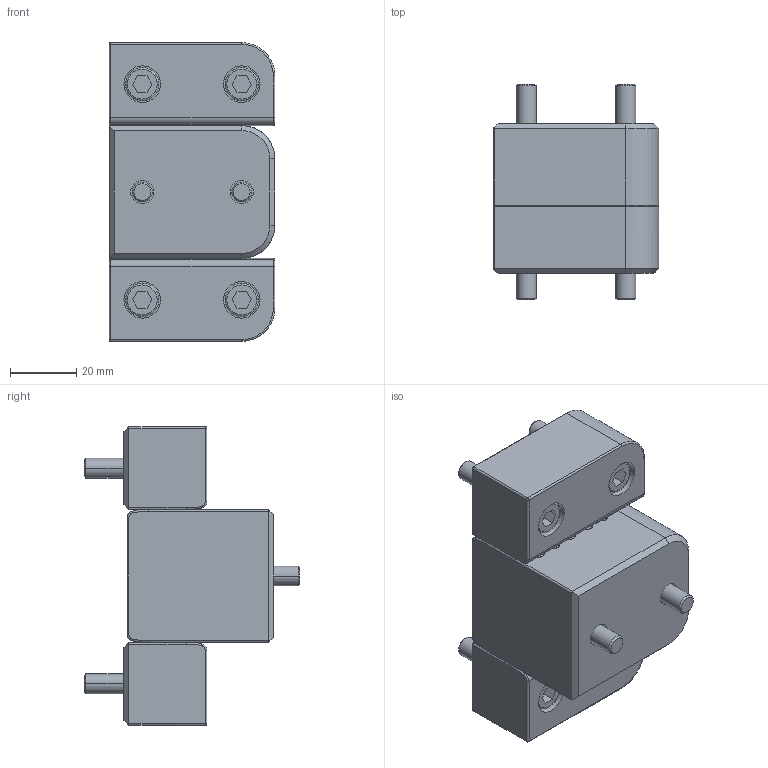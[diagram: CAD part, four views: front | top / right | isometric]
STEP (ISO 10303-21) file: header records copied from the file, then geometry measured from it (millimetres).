
FILE_DESCRIPTION (( 'STEP AP203' ), '1' );
FILE_NAME ('GLM50X90.step', '2015-11-05T22:08:51', ( '' ), ( '' ), 'SwSTEP 2.0', 'SolidWorks 2014', '' );
FILE_SCHEMA (( 'CONFIG_CONTROL_DESIGN' ));
Length unit declared in the file: millimetre
Products named in the file (6): GLM50X90 RH; GLM50X90 LH; M6_X_45; GLM50X90; M6_X_30; GLM50X90 MALE
Assembly tree (9 placements, depth 2):
  GLM50X90
    GLM50X90 MALE
    GLM50X90 RH
    GLM50X90 LH
    M6_X_45  x2
    M6_X_30  x4
Bounding box: 50 x 65 x 90 mm (x, y, z)
Volume: 144942.5 mm3; surface area: 33816.9 mm2
Topology: 9 solids, 9 shells, 483 faces, 1019 edges, 658 vertices
Faces by surface type: cylinder 253, plane 184, torus 28, cone 16, sphere 2
Entity records: 12017 total; most frequent: DIRECTION 2179, CARTESIAN_POINT 1972, ORIENTED_EDGE 1730, AXIS2_PLACEMENT_3D 919, EDGE_CURVE 865, VERTEX_POINT 562, EDGE_LOOP 521, CIRCLE 496
